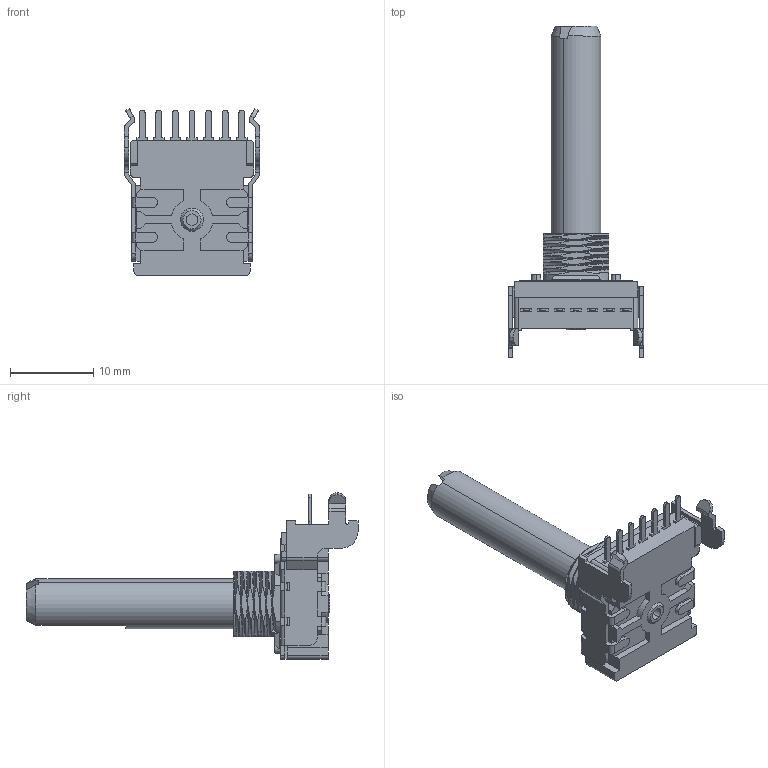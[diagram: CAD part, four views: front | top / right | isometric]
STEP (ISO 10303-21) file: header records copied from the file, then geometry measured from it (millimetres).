
FILE_DESCRIPTION (( 'STEP AP203' ), '1' );
FILE_NAME ('P140KV1-F30.STEP', '2026-09-14T19:05:06', ( '' ), ( '' ), 'SwSTEP 2.0', 'SolidWorks 2026', '' );
FILE_SCHEMA (( 'CONFIG_CONTROL_DESIGN' ));
Length unit declared in the file: millimetre
Products named in the file (8): bushing; Housing; spring_plate; H-terminal; 1-F30; KV_housing; P140KV1-F30; KV1 bracket
Assembly tree (13 placements, depth 3):
  P140KV1-F30
    KV_housing
      Housing
      H-terminal  x7
    1-F30
    spring_plate
    bushing
    KV1 bracket
Bounding box: 16.3 x 40 x 20.1 mm (x, y, z)
Volume: 1930 mm3; surface area: 3308 mm2
Topology: 12 solids, 12 shells, 701 faces, 1945 edges, 1268 vertices
Faces by surface type: plane 442, cylinder 179, bspline 61, cone 17, torus 2
Entity records: 34945 total; most frequent: CARTESIAN_POINT 17982, ORIENTED_EDGE 3602, DIRECTION 3004, EDGE_CURVE 1801, VERTEX_POINT 1172, LINE 1160, VECTOR 1160, AXIS2_PLACEMENT_3D 922
